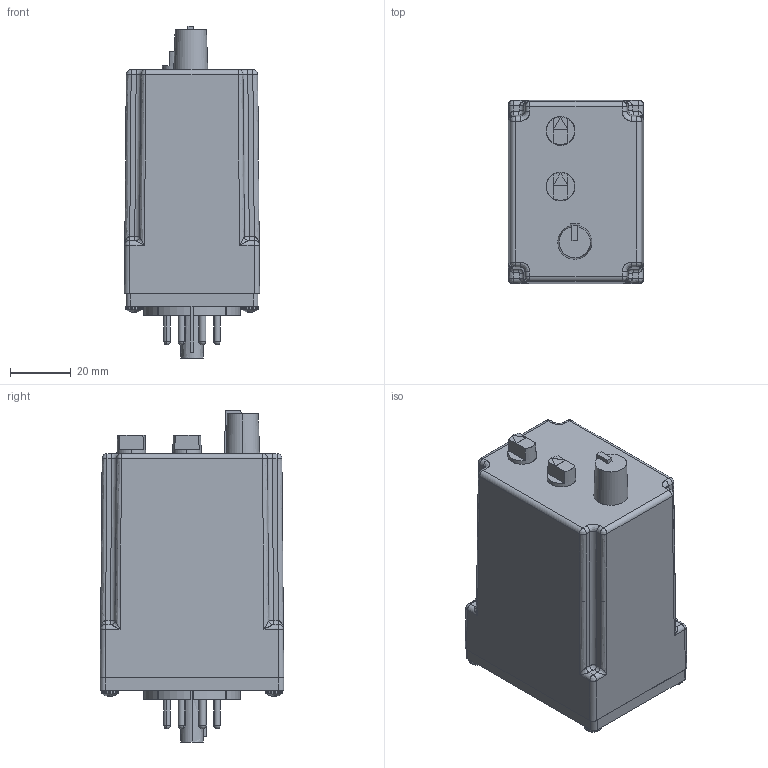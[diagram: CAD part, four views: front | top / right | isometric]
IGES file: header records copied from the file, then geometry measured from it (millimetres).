
Start section: SolidWorks IGES file using analytic representation for surfaces
Global section: file name: D:\Modeling Work\Macromatic\2019\TR-6 eCAD Package\TR-6 Package\TR-6 Multi\TR-6 Multi.IGS; native system: SolidWorks 2019; preprocessor: SolidWorks 2019; author: mdahl; date: 190520.190340; units: millimetre
Bounding box: 44.45 x 60.33 x 109.09 mm (x, y, z)
Surface area: 29994.9 mm2 (no closed solid volume)
Topology: 0 solids, 0 shells, 716 faces, 8766 edges, 8698 vertices
Faces by surface type: bspline 361, revolution 355
